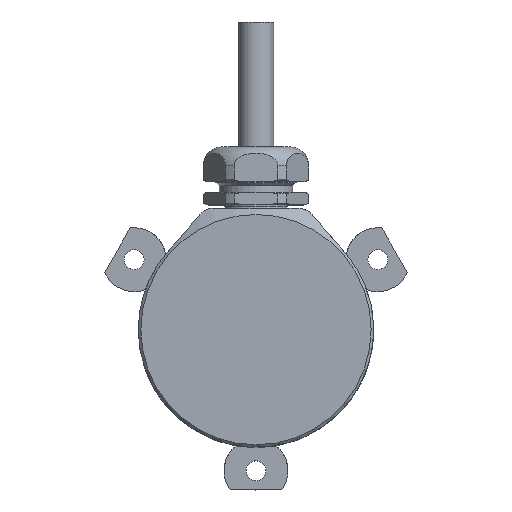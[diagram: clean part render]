
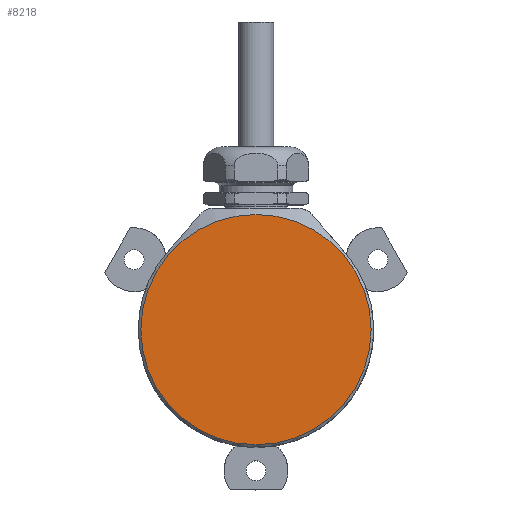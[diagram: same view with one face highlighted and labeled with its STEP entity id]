
A CAD part, top view. The second image highlights one B-rep face of the part: STEP entity #8218.
In plain terms, the highlighted planar face has unit normal (0, 0, 1).
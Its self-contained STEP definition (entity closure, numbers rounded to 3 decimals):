
#131=PLANE('',#8772);
#1693=ORIENTED_EDGE('',*,*,#2850,.T.);
#2850=EDGE_CURVE('',#3499,#3499,#3929,.T.);
#3499=VERTEX_POINT('',#12074);
#3929=CIRCLE('',#8771,18.);
#4364=EDGE_LOOP('',(#1693));
#4944=FACE_BOUND('',#4364,.T.);
#8218=ADVANCED_FACE('',(#4944),#131,.T.);
#8771=AXIS2_PLACEMENT_3D('',#12073,#9954,#9955);
#8772=AXIS2_PLACEMENT_3D('',#12075,#9956,#9957);
#9954=DIRECTION('',(0.,0.,1.));
#9955=DIRECTION('',(1.,0.,0.));
#9956=DIRECTION('',(0.,0.,1.));
#9957=DIRECTION('',(1.,0.,0.));
#12073=CARTESIAN_POINT('',(0.,0.,48.1));
#12074=CARTESIAN_POINT('',(18.,0.,48.1));
#12075=CARTESIAN_POINT('',(0.,0.,48.1));
